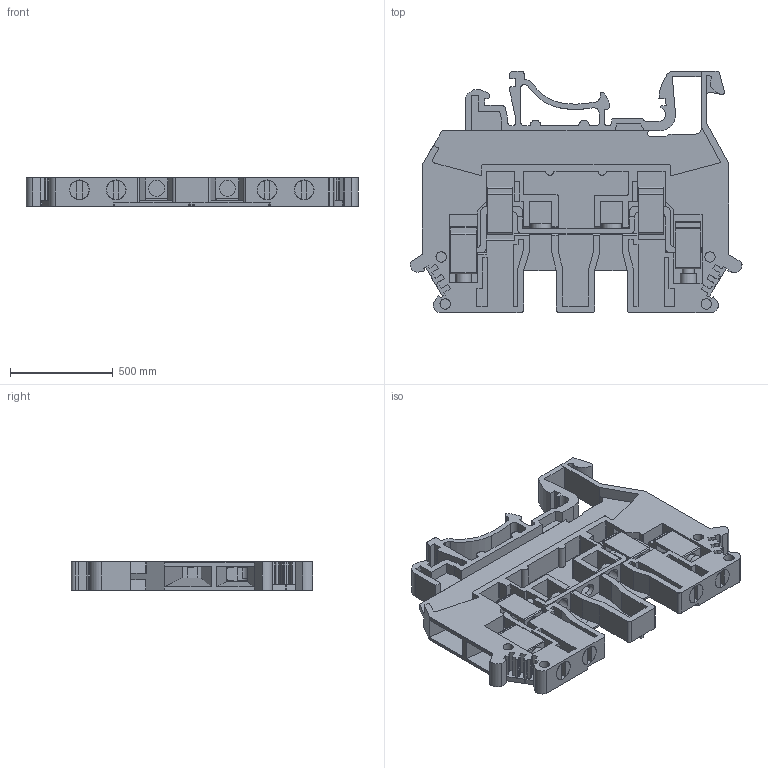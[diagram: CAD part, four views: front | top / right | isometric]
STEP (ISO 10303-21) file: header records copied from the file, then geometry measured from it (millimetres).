
FILE_DESCRIPTION((''),'2;1');
FILE_NAME('11_ASM','2022-04-20T',('Administrator'),(''),'PRO/ENGINEER BY PARAMETRIC TECHNOLOGY CORPORATION, 2008020','PRO/ENGINEER BY PARAMETRIC TECHNOLOGY CORPORATION, 2008020','');
FILE_SCHEMA(('CONFIG_CONTROL_DESIGN'));
Length unit declared in the file: inch
Products named in the file (17): _2-2_4; PRT0002_5; MANIFOLD_SOLID_BREP_14610; MANIFOLD_SOLID_BREP_14914; PRT0001_12_ASM_ASM_ASM; MANIFOLD_SOLID_BREP_15250; MANIFOLD_SOLID_BREP_15554; PRT0003_1_ASM_ASM_ASM; PRT0008; 2-2_ASM_13_ASM_ASM_ASM; PRT0001; 03_ASM_ASM_ASM; PRT0007; PRT0009; PRT0010; 10_ASM_ASM; 11_ASM
Assembly tree (16 placements, depth 6):
  11_ASM
    10_ASM_ASM
      03_ASM_ASM_ASM
        2-2_ASM_13_ASM_ASM_ASM
          _2-2_4
          PRT0002_5
          PRT0001_12_ASM_ASM_ASM
            MANIFOLD_SOLID_BREP_14610
            MANIFOLD_SOLID_BREP_14914
          PRT0003_1_ASM_ASM_ASM
            MANIFOLD_SOLID_BREP_15250
            MANIFOLD_SOLID_BREP_15554
          PRT0008
        PRT0001
      PRT0007
      PRT0009
      PRT0010
Bounding box: 1615.91 x 1175.3 x 137.16 mm (x, y, z)
Volume: 94570180.6 mm3; surface area: 7534255.7 mm2
Topology: 11 solids, 11 shells, 740 faces, 2134 edges, 1429 vertices
Faces by surface type: plane 509, cylinder 221, cone 8, bspline 2
Entity records: 24977 total; most frequent: CARTESIAN_POINT 4600, ORIENTED_EDGE 4268, DIRECTION 4142, EDGE_CURVE 2134, VECTOR 1596, LINE 1596, VERTEX_POINT 1429, AXIS2_PLACEMENT_3D 1273
